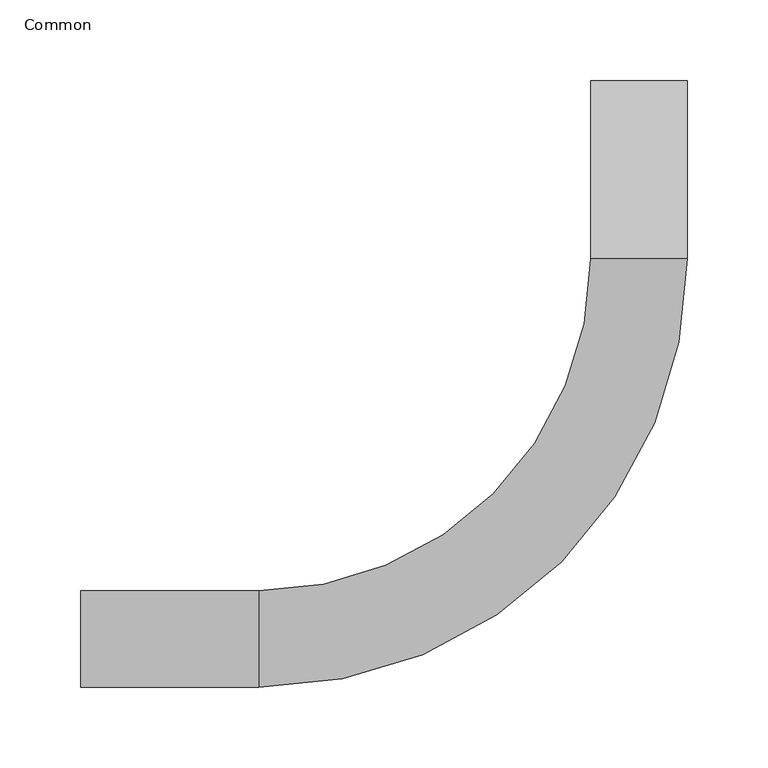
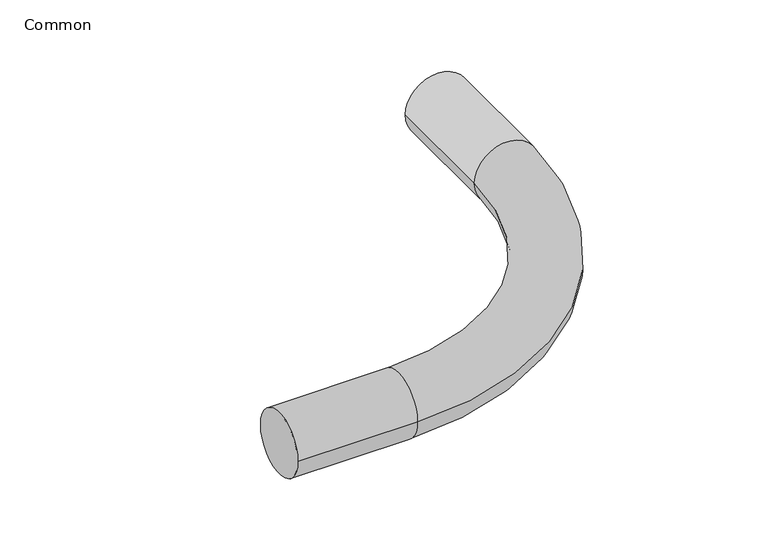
"""IFC4 building model written with IfcOpenShell, lengths in millimetres: cable carrier fitting geometry, 011_電線管エルボ : Common."""

import ifcopenshell
import ifcopenshell.guid

model = None  # the IFC model being written
_history = None  # IfcOwnerHistory: only IFC2X3 demands one
_inside = {}  # id of a spatial element -> (the spatial element, [elements in it])
_under = {}  # id of a project, library or spatial element -> (it, [spatial elements below it])
_declared = {}  # id of a project -> (the project, [libraries it declares])
_typed = {}  # id of a type object -> (the type object, [elements of that type])
_made_of = {}  # id of a material, layer set ... -> (it, [elements and type objects made of it])


def new_model(schema):
    """Start an empty IFC model of exactly this schema.

    Asked for "IFC4X3", IfcOpenShell would pick the latest addendum, in which some entities
    have other attributes; the version numbers below select the first issue.
    IFC2X3 requires an IfcOwnerHistory on every rooted entity: one is made here for all.
    """
    global model, _history
    if schema == "IFC4X3":
        model = ifcopenshell.file(schema_version=(4, 3, 0, 0))
    else:
        model = ifcopenshell.file(schema=schema)
    _inside.clear()
    _under.clear()
    _declared.clear()
    _typed.clear()
    _made_of.clear()
    _history = None
    if model.schema == "IFC2X3":
        org = make("IfcOrganization", Name="unknown")
        user = make(
            "IfcPersonAndOrganization",
            ThePerson=make("IfcPerson", FamilyName="unknown"),
            TheOrganization=org,
        )
        app = make(
            "IfcApplication",
            ApplicationDeveloper=org,
            Version="unknown",
            ApplicationFullName="unknown",
            ApplicationIdentifier="unknown",
        )
        _history = make(
            "IfcOwnerHistory",
            OwningUser=user,
            OwningApplication=app,
            ChangeAction="ADDED",
            CreationDate=0,
        )
    return model


def make(cls, **values):
    """One entity of the class cls with the attributes given. An attribute that is None is left unset."""
    return model.create_entity(
        cls, **{name: value for name, value in values.items() if value is not None}
    )


def rooted(cls, **values):
    """An entity with a GlobalId (a new one), such as an element, a storey or a relation."""
    return make(cls, GlobalId=ifcopenshell.guid.new(), OwnerHistory=_history, **values)


def si_unit(unit_type, name, prefix=None):
    """IfcSIUnit, for example si_unit("LENGTHUNIT", "METRE", prefix="MILLI")."""
    return make("IfcSIUnit", UnitType=unit_type, Prefix=prefix, Name=name)


def assignment(units):
    """IfcUnitAssignment: the units of a project."""
    return None if units is None else make("IfcUnitAssignment", Units=units)


def point(xyz):
    """IfcCartesianPoint."""
    return None if xyz is None else make("IfcCartesianPoint", Coordinates=xyz)


def direction(xyz):
    """IfcDirection."""
    return None if xyz is None else make("IfcDirection", DirectionRatios=xyz)


def frame(location, z_axis=None, x_axis=None):
    """IfcAxis2Placement3D, a coordinate frame: its origin and axes. An axis left out is left unset."""
    return make(
        "IfcAxis2Placement3D",
        Location=point(location),
        Axis=direction(z_axis),
        RefDirection=direction(x_axis),
    )


def origin():
    """The frame at (0, 0, 0) with its axes left unset."""
    return frame((0.0, 0.0, 0.0))


def place(relative_to, where):
    """IfcLocalPlacement: puts the frame where relative to a parent placement (None: the world)."""
    return make(
        "IfcLocalPlacement", PlacementRelTo=relative_to, RelativePlacement=where
    )


def context(
    kind, dimensions, precision=None, world=None, true_north=None, identifier=None
):
    """IfcGeometricRepresentationContext, for example the 3D "Model" context."""
    return make(
        "IfcGeometricRepresentationContext",
        ContextIdentifier=identifier,
        ContextType=kind,
        CoordinateSpaceDimension=dimensions,
        Precision=precision,
        WorldCoordinateSystem=world,
        TrueNorth=true_north,
    )


def project(units=None, contexts=None):
    """IfcProject with its units and contexts."""
    return rooted(
        "IfcProject",
        Name="project",
        RepresentationContexts=contexts,
        UnitsInContext=assignment(units),
    )


def spatial(cls, under=None, at=None, **own):
    """A site, building, storey or space (cls), placed at a placement, below another one or the project."""
    s = rooted(cls, ObjectPlacement=at, **own)
    if under is not None:
        _under.setdefault(under.id(), (under, []))[1].append(s)
    return s


def circle_curve(where, radius):
    """IfcCircle in the frame where."""
    return make("IfcCircle", Position=where, Radius=radius)


def ellipse_curve(where, semi_axis1, semi_axis2):
    """IfcEllipse in the frame where."""
    return make(
        "IfcEllipse", Position=where, SemiAxis1=semi_axis1, SemiAxis2=semi_axis2
    )


def trimmed(basis, trim1, trim2, sense, master):
    """IfcTrimmedCurve: the piece of a basis curve between two trims."""
    return make(
        "IfcTrimmedCurve",
        BasisCurve=basis,
        Trim1=trim1,
        Trim2=trim2,
        SenseAgreement=sense,
        MasterRepresentation=master,
    )


def shape(context_of_items, identifier, shape_type, items):
    """IfcShapeRepresentation: the items that make up one representation, for example the "Body"."""
    return make(
        "IfcShapeRepresentation",
        ContextOfItems=context_of_items,
        RepresentationIdentifier=identifier,
        RepresentationType=shape_type,
        Items=items,
    )


def source(mapping_origin, context_of_items, identifier, shape_type, items):
    """IfcRepresentationMap: a shape defined once, which mapped items show again and again."""
    return make(
        "IfcRepresentationMap",
        MappingOrigin=mapping_origin,
        MappedRepresentation=shape(context_of_items, identifier, shape_type, items),
    )


def transform(
    local_origin,
    x_axis=None,
    y_axis=None,
    z_axis=None,
    scale=None,
    scale2=None,
    scale3=None,
    uniform=True,
):
    """IfcCartesianTransformationOperator3D, or its non-uniform kind. x_axis, y_axis, z_axis: its Axis1, 2, 3."""
    if uniform:
        return make(
            "IfcCartesianTransformationOperator3D",
            Axis1=direction(x_axis),
            Axis2=direction(y_axis),
            LocalOrigin=point(local_origin),
            Scale=scale,
            Axis3=direction(z_axis),
        )
    return make(
        "IfcCartesianTransformationOperator3DnonUniform",
        Axis1=direction(x_axis),
        Axis2=direction(y_axis),
        LocalOrigin=point(local_origin),
        Scale=scale,
        Axis3=direction(z_axis),
        Scale2=scale2,
        Scale3=scale3,
    )


def mapped(mapping_source, mapping_target):
    """IfcMappedItem: shows the shape of a source again, moved by a transform."""
    return make(
        "IfcMappedItem", MappingSource=mapping_source, MappingTarget=mapping_target
    )


def made_of(thing, what):
    """Note that an element or type object is made of a material, layer set ...; save() writes the relation."""
    if what is not None:
        _made_of.setdefault(what.id(), (what, []))[1].append(thing)
    return thing


def element(
    cls,
    number,
    at=None,
    inside=None,
    cuts=None,
    type_object=None,
    material=None,
    context=None,
    identifier="Body",
    shape_type=None,
    held_by="IfcProductDefinitionShape",
    body=None,
    shapes=None,
    **own,
):
    """One element of the class cls, such as IfcWall. Its Tag is "e" and its number.

    at: its placement. inside: the storey or other place that contains it. cuts: it is an
    opening in that element (IfcRelVoidsElement). A single representation is given by context,
    identifier, shape_type and body (its items); several are given by shapes. held_by: the class
    of the entity that holds the representations. save() writes the other relations.
    """
    e = rooted(cls, Tag="e%d" % number, ObjectPlacement=at, **own)
    if body is not None:
        shapes = [shape(context, identifier, shape_type, body)]
    if shapes is not None:
        e.Representation = make(held_by, Representations=shapes)
    if inside is not None:
        _inside.setdefault(inside.id(), (inside, []))[1].append(e)
    if cuts is not None:
        rooted(
            "IfcRelVoidsElement", RelatingBuildingElement=cuts, RelatedOpeningElement=e
        )
    if type_object is not None:
        _typed.setdefault(type_object.id(), (type_object, []))[1].append(e)
    return made_of(e, material)


def aggregate(whole, parts):
    """IfcRelAggregates: a whole, such as a stair, and the parts it consists of."""
    return rooted("IfcRelAggregates", RelatingObject=whole, RelatedObjects=parts)


def save(model, path):
    """Write the relations noted so far, then the file.

    IfcRelAggregates (storeys below a building ...), IfcRelContainedInSpatialStructure (elements
    in a storey), IfcRelDefinesByType, IfcRelAssociatesMaterial and IfcRelDeclares: one each for
    every whole, place, type object, material and project.
    """
    for whole, parts in _under.values():
        aggregate(whole, parts)
    for where, things in _inside.values():
        rooted(
            "IfcRelContainedInSpatialStructure",
            RelatedElements=things,
            RelatingStructure=where,
        )
    for kind, things in _typed.values():
        rooted("IfcRelDefinesByType", RelatedObjects=things, RelatingType=kind)
    for what, things in _made_of.values():
        rooted("IfcRelAssociatesMaterial", RelatedObjects=things, RelatingMaterial=what)
    for by, libraries in _declared.values():
        rooted("IfcRelDeclares", RelatingContext=by, RelatedDefinitions=libraries)
    model.write(path)


def plane_surface(at):
    """IfcPlane: the flat surface through the origin of the frame at, square to its z axis."""
    return make("IfcPlane", Position=at)


def cylinder_surface(at, radius):
    """IfcCylindricalSurface: all points at the distance radius from the z axis of the frame at."""
    return make("IfcCylindricalSurface", Position=at, Radius=radius)


def revolved_surface(curve, axis_point, axis_direction):
    """IfcSurfaceOfRevolution: the curve turned about the line through axis_point along axis_direction."""
    return make(
        "IfcSurfaceOfRevolution",
        SweptCurve=make("IfcArbitraryOpenProfileDef", ProfileType="CURVE", Curve=curve),
        AxisPosition=make("IfcAxis1Placement", Location=point(axis_point), Axis=direction(axis_direction)),
    )


def advanced_brep(points, edges, surfaces, faces):
    """IfcAdvancedBrep: a solid bounded by faces that lie on surfaces and meet in shared edges.

    An edge is (start, end): straight between two places in points (the first is 0);
    or (start, end, curve); or (start, end, curve, False) where it runs against its curve.
    A face is (place in surfaces, loops), or (place, loops, False) where it looks against
    its surface's normal. A loop lists edges by number (the first is 1), with a minus sign
    where the edge is run from its end to its start. The first loop is the outer one.
    """
    corners = [point(p) for p in points]
    vertices = [make("IfcVertexPoint", VertexGeometry=c) for c in corners]
    made = []
    for start, end, *more in edges:
        made.append(
            make(
                "IfcEdgeCurve",
                EdgeStart=vertices[start],
                EdgeEnd=vertices[end],
                EdgeGeometry=more[0] if more else make("IfcPolyline", Points=[corners[start], corners[end]]),
                SameSense=more[1] if len(more) > 1 else True,
            )
        )
    hull = []
    for where, loops, *sense in faces:
        bounds = []
        for j, loop in enumerate(loops):
            ring = [make("IfcOrientedEdge", EdgeElement=made[abs(k) - 1], Orientation=k > 0) for k in loop]
            bounds.append(
                make(
                    "IfcFaceOuterBound" if j == 0 else "IfcFaceBound",
                    Bound=make("IfcEdgeLoop", EdgeList=ring),
                    Orientation=True,
                )
            )
        hull.append(make("IfcAdvancedFace", Bounds=bounds, FaceSurface=surfaces[where], SameSense=sense[0] if sense else True))
    return make("IfcAdvancedBrep", Outer=make("IfcClosedShell", CfsFaces=hull))


def common_d9f80457(model_context):
    return source(origin(), model_context, "Body", "AdvancedBrep", [
        advanced_brep(
        [(-345.0, -29.8, 0.0), (-345.0, 29.8, 0.0), (-235.0, -29.8, 0.0), (-235.0, 29.8, 0.0), (-29.8, 235.0, 0.0), (29.8, 235.0, 0.0), (29.8, 345.0, 0.0), (-29.8, 345.0, 0.0)],
        [
            (0, 1, circle_curve(frame((-345.0, 0.0, 0.0), z_axis=(-1.0, 0.0, 0.0), x_axis=(0.0, 1.0, 0.0)), 29.8)),
            (1, 0, circle_curve(frame((-345.0, 0.0, 0.0), z_axis=(-1.0, 0.0, 0.0), x_axis=(0.0, 1.0, 0.0)), 29.8)),
            (0, 2),
            (2, 3, circle_curve(frame((-235.0, 0.0, 0.0), z_axis=(-1.0, 0.0, 0.0), x_axis=(0.0, 1.0, 0.0)), 29.8)),
            (3, 1),
            (3, 2, circle_curve(frame((-235.0, 0.0, 0.0), z_axis=(-1.0, 0.0, 0.0), x_axis=(0.0, 1.0, 0.0)), 29.8)),
            (4, 3, circle_curve(frame((-235.0, 235.0, 0.0), z_axis=(0.0, 0.0, -1.0), x_axis=(0.0, -1.0, 0.0)), 205.2)),
            (2, 5, circle_curve(frame((-235.0, 235.0, 0.0), z_axis=(0.0, 0.0, 1.0), x_axis=(0.0, -1.0, 0.0)), 264.8)),
            (5, 4, circle_curve(frame((0.0, 235.0, 0.0), z_axis=(0.0, -1.0, 0.0), x_axis=(-1.0, 0.0, 0.0)), 29.8)),
            (4, 5, circle_curve(frame((0.0, 235.0, 0.0), z_axis=(0.0, -1.0, 0.0), x_axis=(-1.0, 0.0, 0.0)), 29.8)),
            (6, 7, circle_curve(frame((0.0, 345.0, 0.0), z_axis=(0.0, 1.0, 0.0), x_axis=(-1.0, 0.0, 0.0)), 29.8)),
            (7, 6, circle_curve(frame((0.0, 345.0, 0.0), z_axis=(0.0, 1.0, 0.0), x_axis=(-1.0, 0.0, 0.0)), 29.8)),
            (5, 6),
            (7, 4),
        ],
        [
            plane_surface(frame((-345.0, 0.0, 0.0), z_axis=(-1.0, 0.0, 0.0), x_axis=(0.0, 0.0, 1.0))),
            cylinder_surface(frame((-345.0, 0.0, 0.0), z_axis=(-1.0, 0.0, 0.0), x_axis=(0.0, 1.0, 0.0)), 29.8),
            revolved_surface(trimmed(ellipse_curve(frame((-235.0, 0.0, 0.0), z_axis=(-1.0, 0.0, 0.0), x_axis=(0.0, 1.0, 0.0)), 29.8, 29.8), [point((-235.0, -29.8, 0.0))], [point((-235.0, 29.8, 0.0))], True, "CARTESIAN"), (-235.0, 235.0, 0.0), (0.0, 0.0, 1.0)),
            revolved_surface(trimmed(ellipse_curve(frame((-235.0, 0.0, 0.0), z_axis=(-1.0, 0.0, 0.0), x_axis=(0.0, 1.0, 0.0)), 29.8, 29.8), [point((-235.0, 29.8, 0.0))], [point((-235.0, -29.8, 0.0))], True, "CARTESIAN"), (-235.0, 235.0, 0.0), (0.0, 0.0, 1.0)),
            plane_surface(frame((0.0, 345.0, 0.0), z_axis=(0.0, 1.0, 0.0), x_axis=(0.0, 0.0, 1.0))),
            cylinder_surface(frame((0.0, 235.0, 0.0), z_axis=(0.0, -1.0, 0.0), x_axis=(-1.0, 0.0, 0.0)), 29.8),
        ],
        [
            (0, [[1, 2]]),
            (1, [[-1, 3, 4, 5]]),
            (1, [[-2, -5, 6, -3]]),
            (2, [[7, -4, 8, 9]]),
            (3, [[-8, -6, -7, 10]]),
            (4, [[11, 12]]),
            (5, [[-9, 13, -12, 14]]),
            (5, [[-10, -14, -11, -13]]),
        ],
    ),
    ])


if __name__ == "__main__":
    model = new_model("IFC4")
    model_context = context("Model", 3, world=origin())
    ifc_project = project(units=[si_unit("LENGTHUNIT", "METRE", prefix="MILLI")], contexts=[model_context])
    site = spatial("IfcSite", under=ifc_project)
    building = spatial("IfcBuilding", under=site)
    placement = place(None, origin())
    common_shape = common_d9f80457(model_context)
    element("IfcCableCarrierFitting", 1, ObjectType="011_電線管エルボ : Common", at=placement, inside=building, context=model_context, shape_type="MappedRepresentation", body=[
        mapped(common_shape, transform((0.0, 0.0, 0.0), x_axis=(1.0, 0.0, 0.0), y_axis=(0.0, 1.0, 0.0), z_axis=(0.0, 0.0, 1.0))),
    ])
    save(model, "model.ifc")
